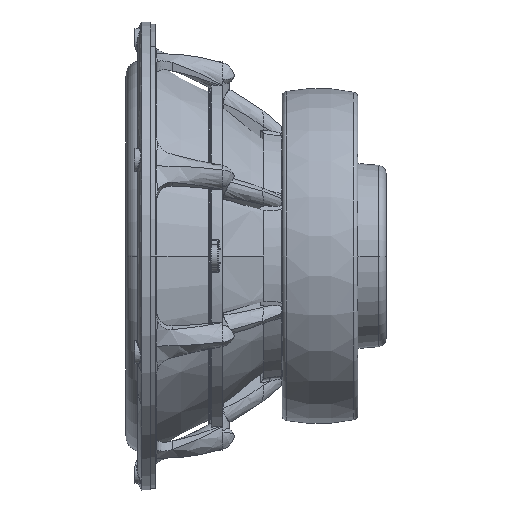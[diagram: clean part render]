
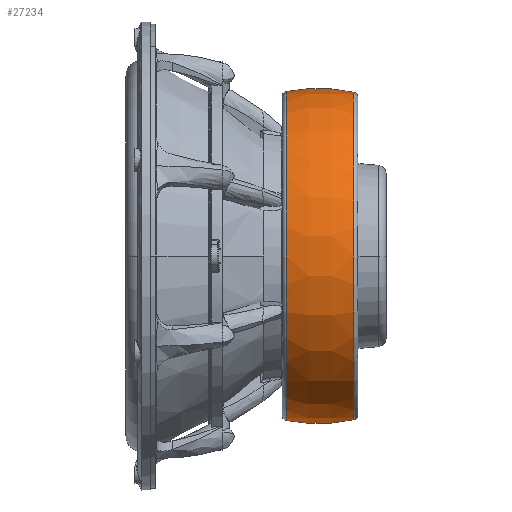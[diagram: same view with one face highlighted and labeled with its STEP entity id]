
A CAD part, left-side view. The second image highlights one B-rep face of the part: STEP entity #27234.
In plain terms, the highlighted toroidal (fillet/blend) face has major radius 0.248 mm and minor radius 100 mm.
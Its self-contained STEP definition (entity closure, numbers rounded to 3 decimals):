
#1136 = ORIENTED_EDGE ( 'NONE', *, *, #42396, .F. ) ;
#1848 = AXIS2_PLACEMENT_3D ( 'NONE', #58868, #95796, #41793 ) ;
#4393 = EDGE_CURVE ( 'NONE', #79106, #87516, #31447, .T. ) ;
#7762 = DIRECTION ( 'NONE',  ( 0., 0., -1. ) ) ;
#19402 = ORIENTED_EDGE ( 'NONE', *, *, #96069, .F. ) ;
#21130 = EDGE_LOOP ( 'NONE', ( #1136, #84746, #85031, #19402 ) ) ;
#22278 = CIRCLE ( 'NONE', #107576, 97.93 ) ;
#22472 = CARTESIAN_POINT ( 'NONE',  ( 0., 19.258, -97.93 ) ) ;
#24023 = DIRECTION ( 'NONE',  ( 1., 0., 0. ) ) ;
#24888 = CARTESIAN_POINT ( 'NONE',  ( 0., 19.258, 0. ) ) ;
#27234 = ADVANCED_FACE ( 'NONE', ( #55313 ), #28238, .T. ) ;
#28238 = TOROIDAL_SURFACE ( 'NONE', #105686, 0.248, 100. ) ;
#30048 = VERTEX_POINT ( 'NONE', #98565 ) ;
#31447 = CIRCLE ( 'NONE', #72084, 100. ) ;
#38072 = CIRCLE ( 'NONE', #84323, 100. ) ;
#38285 = CARTESIAN_POINT ( 'NONE',  ( 0., 59.67, -98.425 ) ) ;
#38917 = VERTEX_POINT ( 'NONE', #39214 ) ;
#39214 = CARTESIAN_POINT ( 'NONE',  ( 0., 19.258, 97.93 ) ) ;
#41793 = DIRECTION ( 'NONE',  ( 0., 0., -1. ) ) ;
#42396 = EDGE_CURVE ( 'NONE', #30048, #38917, #38072, .T. ) ;
#51402 = DIRECTION ( 'NONE',  ( -1., 0., 0. ) ) ;
#55313 = FACE_OUTER_BOUND ( 'NONE', #21130, .T. ) ;
#56432 = EDGE_CURVE ( 'NONE', #30048, #79106, #75590, .T. ) ;
#58868 = CARTESIAN_POINT ( 'NONE',  ( 0., 59.67, 0. ) ) ;
#60447 = CARTESIAN_POINT ( 'NONE',  ( 0., 40.662, 0.248 ) ) ;
#61004 = DIRECTION ( 'NONE',  ( 0., 0., -1. ) ) ;
#69654 = CARTESIAN_POINT ( 'NONE',  ( 0., 40.662, -0.248 ) ) ;
#72084 = AXIS2_PLACEMENT_3D ( 'NONE', #69654, #51402, #88409 ) ;
#75590 = CIRCLE ( 'NONE', #1848, 98.425 ) ;
#79106 = VERTEX_POINT ( 'NONE', #38285 ) ;
#82629 = DIRECTION ( 'NONE',  ( 0., -1., 0. ) ) ;
#84323 = AXIS2_PLACEMENT_3D ( 'NONE', #60447, #24023, #61004 ) ;
#84746 = ORIENTED_EDGE ( 'NONE', *, *, #56432, .T. ) ;
#85031 = ORIENTED_EDGE ( 'NONE', *, *, #4393, .T. ) ;
#87516 = VERTEX_POINT ( 'NONE', #22472 ) ;
#88409 = DIRECTION ( 'NONE',  ( 0., 0., 1. ) ) ;
#92090 = DIRECTION ( 'NONE',  ( 0., -1., 0. ) ) ;
#95796 = DIRECTION ( 'NONE',  ( 0., -1., 0. ) ) ;
#96069 = EDGE_CURVE ( 'NONE', #38917, #87516, #22278, .T. ) ;
#98565 = CARTESIAN_POINT ( 'NONE',  ( 0., 59.67, 98.425 ) ) ;
#105686 = AXIS2_PLACEMENT_3D ( 'NONE', #110516, #82629, #119544 ) ;
#107576 = AXIS2_PLACEMENT_3D ( 'NONE', #24888, #92090, #7762 ) ;
#110516 = CARTESIAN_POINT ( 'NONE',  ( 0., 40.662, 0. ) ) ;
#119544 = DIRECTION ( 'NONE',  ( 0., 0., -1. ) ) ;
